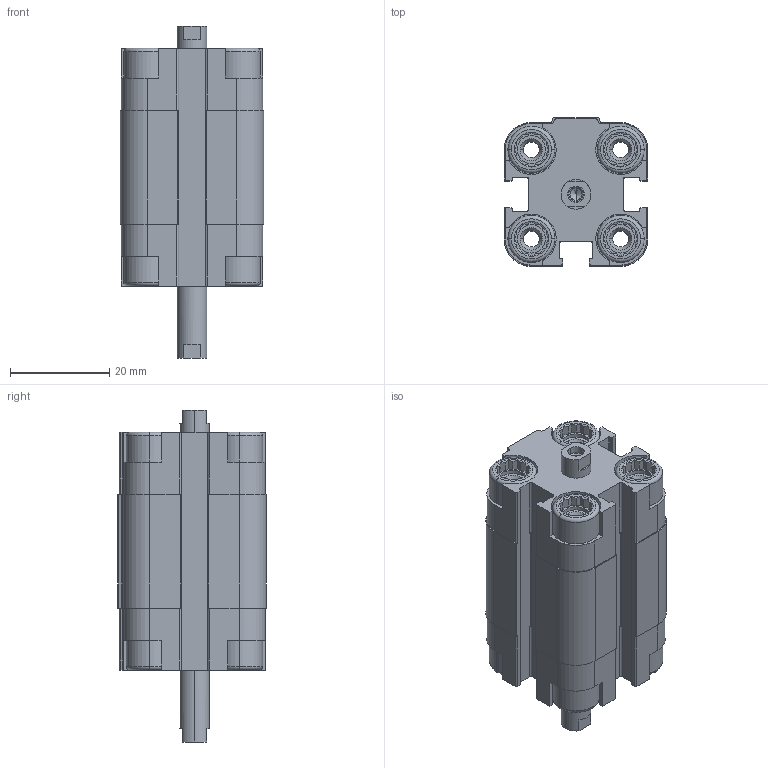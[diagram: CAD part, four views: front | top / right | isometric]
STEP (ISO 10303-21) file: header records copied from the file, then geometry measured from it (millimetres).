
FILE_DESCRIPTION (( 'STEP AP203' ), '1' );
FILE_NAME ('CDVU12-10F-P.STEP', '2020-07-24T18:00:30', ( '' ), ( '' ), 'SwSTEP 2.0', 'SolidWorks 2019', '' );
FILE_SCHEMA (( 'CONFIG_CONTROL_DESIGN' ));
Length unit declared in the file: millimetre
Products named in the file (1): CDVU12-10F-P
Bounding box: 29 x 30 x 67 mm (x, y, z)
Volume: 30170.7 mm3; surface area: 15888.6 mm2
Topology: 2 solids, 2 shells, 566 faces, 1508 edges, 980 vertices
Faces by surface type: plane 338, cylinder 164, cone 48, torus 16
Entity records: 17779 total; most frequent: CARTESIAN_POINT 3623, ORIENTED_EDGE 3000, DIRECTION 2850, EDGE_CURVE 1500, VERTEX_POINT 980, AXIS2_PLACEMENT_3D 975, VECTOR 900, LINE 900
